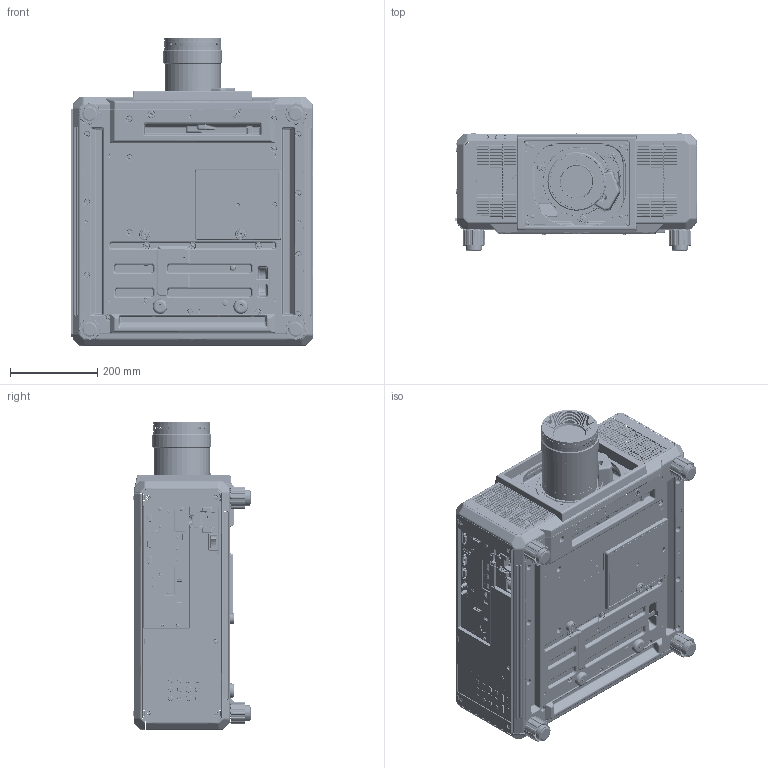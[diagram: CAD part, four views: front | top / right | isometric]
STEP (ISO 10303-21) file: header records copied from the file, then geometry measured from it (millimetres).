
FILE_DESCRIPTION(/* description */ (''),/* implementation_level */ '2;1');
FILE_NAME(/* name */ '01103215_ZA00_RQ25K_D3LET40_FACE.stp',/* time_stamp */ '2022-12-05T10:44:37+09:00',/* author */ (''),/* organization */ (''),/* preprocessor_version */ 'ST-DEVELOPER v16',/* originating_system */ 'SIEMENS PLM Software NX 10.0',/* authorisation */ '');
FILE_SCHEMA (('AUTOMOTIVE_DESIGN { 1 0 10303 214 3 1 1 1 }'));
Products named in the file (1): 01103215_ZA00
Bounding box: 556.3 x 269 x 705.15 mm (x, y, z)
Surface area: 1980545.8 mm2 (no closed solid volume)
Topology: 0 solids, 2276 shells, 10341 faces, 48446 edges, 39782 vertices
Faces by surface type: plane 5173, cylinder 4025, torus 444, bspline 398, cone 179, sphere 120, extrusion 2
Full cylindrical faces by diameter (mm): 1.02 x2, 3 x1, 3.3 x1, 3.6 x2, 5 x2, 5.5 x1, 6 x2, 7 x2, 8 x2, 9.5 x2, 14.9 x1, 23.647 x1, 37.2 x4, 40 x4, 72.1 x1, 79.7 x1, 82.4 x1, 85.1 x1, 87.8 x1, 90.5 x1, 93.2 x1, 95.9 x1, 98.6 x1, 101.3 x1, 104 x1, 106.7 x1, 109.2 x1, 109.4 x1, 112.1 x1, 114.8 x1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
Entity records: 600389 total; most frequent: CARTESIAN_POINT 153530, DIRECTION 78449, ORIENTED_EDGE 58328, EDGE_CURVE 47931, VERTEX_POINT 39627, VECTOR 26691, LINE 26689, AXIS2_PLACEMENT_3D 25879
